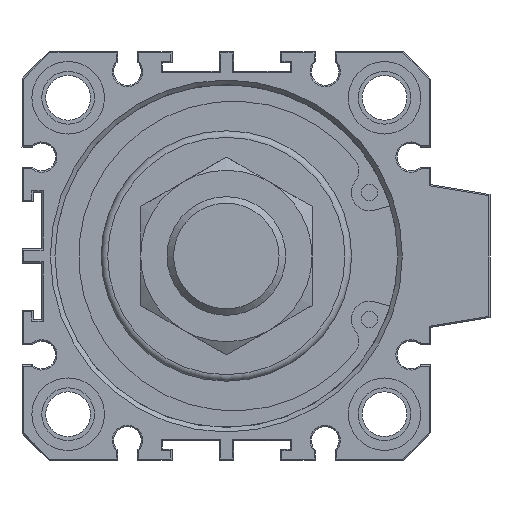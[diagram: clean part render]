
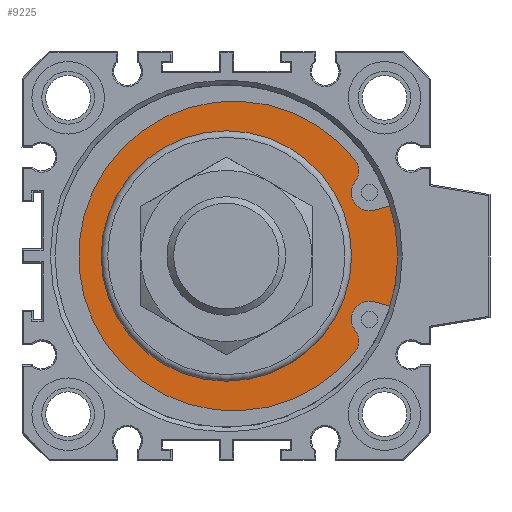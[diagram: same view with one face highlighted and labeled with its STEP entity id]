
A CAD part, front view. The second image highlights one B-rep face of the part: STEP entity #9225.
In plain terms, the highlighted planar face has unit normal (0, -1, 0).
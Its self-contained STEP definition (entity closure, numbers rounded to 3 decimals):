
#40=LINE('',#12416,#640);
#41=LINE('',#12429,#641);
#640=VECTOR('',#10417,1000.);
#641=VECTOR('',#10428,1000.);
#1597=ORIENTED_EDGE('',*,*,#3307,.T.);
#1598=ORIENTED_EDGE('',*,*,#3308,.T.);
#1599=ORIENTED_EDGE('',*,*,#3309,.T.);
#1600=ORIENTED_EDGE('',*,*,#3310,.T.);
#1601=ORIENTED_EDGE('',*,*,#3311,.T.);
#1602=ORIENTED_EDGE('',*,*,#3312,.T.);
#1603=ORIENTED_EDGE('',*,*,#3313,.T.);
#1604=ORIENTED_EDGE('',*,*,#3314,.F.);
#1605=ORIENTED_EDGE('',*,*,#3304,.T.);
#3304=EDGE_CURVE('',#4168,#4168,#4680,.T.);
#3307=EDGE_CURVE('',#4171,#4172,#40,.T.);
#3308=EDGE_CURVE('',#4172,#4173,#4683,.T.);
#3309=EDGE_CURVE('',#4173,#4174,#4684,.T.);
#3310=EDGE_CURVE('',#4174,#4175,#4685,.T.);
#3311=EDGE_CURVE('',#4175,#4176,#4686,.T.);
#3312=EDGE_CURVE('',#4176,#4177,#4687,.T.);
#3313=EDGE_CURVE('',#4177,#4178,#41,.T.);
#3314=EDGE_CURVE('',#4171,#4178,#4688,.T.);
#4168=VERTEX_POINT('',#12408);
#4171=VERTEX_POINT('',#12417);
#4172=VERTEX_POINT('',#12418);
#4173=VERTEX_POINT('',#12420);
#4174=VERTEX_POINT('',#12422);
#4175=VERTEX_POINT('',#12424);
#4176=VERTEX_POINT('',#12426);
#4177=VERTEX_POINT('',#12428);
#4178=VERTEX_POINT('',#12430);
#4680=CIRCLE('',#9684,19.);
#4683=CIRCLE('',#9690,2.741);
#4684=CIRCLE('',#9691,2.741);
#4685=CIRCLE('',#9692,23.5);
#4686=CIRCLE('',#9693,2.74);
#4687=CIRCLE('',#9694,2.741);
#4688=CIRCLE('',#9695,27.5);
#4913=EDGE_LOOP('',(#1597,#1598,#1599,#1600,#1601,#1602,#1603,#1604));
#4914=EDGE_LOOP('',(#1605));
#5427=FACE_BOUND('',#4913,.T.);
#5428=FACE_BOUND('',#4914,.T.);
#5914=PLANE('',#9689);
#9225=ADVANCED_FACE('',(#5427,#5428),#5914,.T.);
#9684=AXIS2_PLACEMENT_3D('',#12407,#10405,#10406);
#9689=AXIS2_PLACEMENT_3D('',#12415,#10415,#10416);
#9690=AXIS2_PLACEMENT_3D('',#12419,#10418,#10419);
#9691=AXIS2_PLACEMENT_3D('',#12421,#10420,#10421);
#9692=AXIS2_PLACEMENT_3D('',#12423,#10422,#10423);
#9693=AXIS2_PLACEMENT_3D('',#12425,#10424,#10425);
#9694=AXIS2_PLACEMENT_3D('',#12427,#10426,#10427);
#9695=AXIS2_PLACEMENT_3D('',#12431,#10429,#10430);
#10405=DIRECTION('',(0.,1.,0.));
#10406=DIRECTION('',(-1.,0.,0.));
#10415=DIRECTION('',(0.,-1.,0.));
#10416=DIRECTION('',(1.,0.,0.));
#10417=DIRECTION('',(-0.966,0.,-0.259));
#10418=DIRECTION('',(0.,1.,0.));
#10419=DIRECTION('',(1.,0.,0.));
#10420=DIRECTION('',(0.,-1.,0.));
#10421=DIRECTION('',(-1.,0.,0.));
#10422=DIRECTION('',(0.,-1.,0.));
#10423=DIRECTION('',(1.,0.,0.));
#10424=DIRECTION('',(0.,-1.,0.));
#10425=DIRECTION('',(-1.,0.,0.));
#10426=DIRECTION('',(0.,1.,0.));
#10427=DIRECTION('',(1.,0.,0.));
#10428=DIRECTION('',(0.966,0.,-0.259));
#10429=DIRECTION('',(0.,1.,0.));
#10430=DIRECTION('',(-1.,0.,0.));
#12407=CARTESIAN_POINT('',(0.,4.2,0.));
#12408=CARTESIAN_POINT('',(-19.,4.2,0.));
#12415=CARTESIAN_POINT('',(0.,4.2,-27.5));
#12416=CARTESIAN_POINT('',(26.308,4.2,8.009));
#12417=CARTESIAN_POINT('',(26.308,4.2,8.009));
#12418=CARTESIAN_POINT('',(22.414,4.2,6.965));
#12419=CARTESIAN_POINT('',(21.705,4.2,9.613));
#12420=CARTESIAN_POINT('',(19.645,4.2,11.421));
#12421=CARTESIAN_POINT('',(17.355,4.2,12.925));
#12422=CARTESIAN_POINT('',(19.628,4.2,14.455));
#12423=CARTESIAN_POINT('',(1.1,4.2,0.));
#12424=CARTESIAN_POINT('',(19.628,4.2,-14.455));
#12425=CARTESIAN_POINT('',(17.355,4.2,-12.925));
#12426=CARTESIAN_POINT('',(19.645,4.2,-11.421));
#12427=CARTESIAN_POINT('',(21.705,4.2,-9.613));
#12428=CARTESIAN_POINT('',(22.414,4.2,-6.965));
#12429=CARTESIAN_POINT('',(22.414,4.2,-6.965));
#12430=CARTESIAN_POINT('',(26.308,4.2,-8.009));
#12431=CARTESIAN_POINT('',(0.,4.2,0.));
